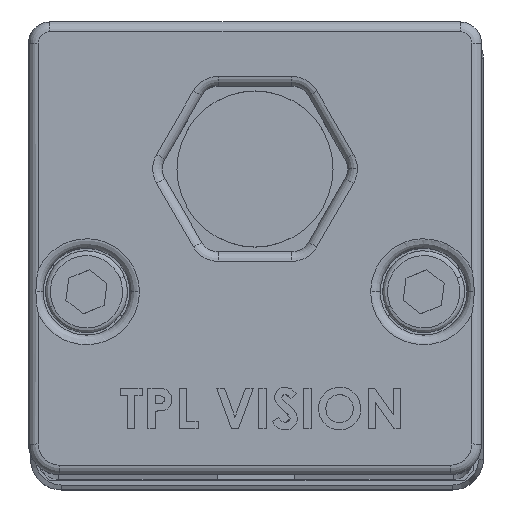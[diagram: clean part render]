
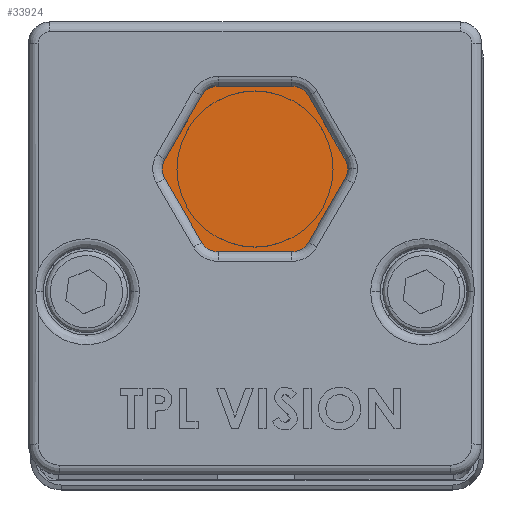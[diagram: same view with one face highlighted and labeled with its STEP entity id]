
A CAD part, top view. The second image highlights one B-rep face of the part: STEP entity #33924.
In plain terms, the highlighted planar face has unit normal (0, 0, 1).
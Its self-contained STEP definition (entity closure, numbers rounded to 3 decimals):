
#3451 = CARTESIAN_POINT ( 'NONE',  ( -0.217, 15.5, 824.5 ) ) ;
#3452 = CARTESIAN_POINT ( 'NONE',  ( 0.051, 14.5, 824.5 ) ) ;
#3529 = DIRECTION ( 'NONE',  ( 1., 0., 0. ) ) ;
#3530 = DIRECTION ( 'NONE',  ( 0., 0., 1. ) ) ;
#3531 = CARTESIAN_POINT ( 'NONE',  ( -1.949, 14.5, 824.5 ) ) ;
#3532 = AXIS2_PLACEMENT_3D ( 'NONE', #3531, #3530, #3529 ) ;
#3537 = CIRCLE ( 'NONE', #3532, 2. ) ;
#10302 = CARTESIAN_POINT ( 'NONE',  ( -18.923, 15.5, 824.5 ) ) ;
#10303 = CARTESIAN_POINT ( 'NONE',  ( -15.112, 22.1, 824.5 ) ) ;
#10304 = CARTESIAN_POINT ( 'NONE',  ( -13.38, 23.1, 824.5 ) ) ;
#10305 = DIRECTION ( 'NONE',  ( 1., 0., 0. ) ) ;
#10306 = DIRECTION ( 'NONE',  ( 0., 0., 1. ) ) ;
#10307 = CARTESIAN_POINT ( 'NONE',  ( -13.38, 21.1, 824.5 ) ) ;
#10308 = AXIS2_PLACEMENT_3D ( 'NONE', #10307, #10306, #10305 ) ;
#10313 = CIRCLE ( 'NONE', #10308, 2. ) ;
#10359 = DIRECTION ( 'NONE',  ( -1., 0., 0. ) ) ;
#10360 = VECTOR ( 'NONE', #10359, 1000. ) ;
#10361 = CARTESIAN_POINT ( 'NONE',  ( -5.759, 23.1, 824.5 ) ) ;
#10362 = LINE ( 'NONE', #10361, #10360 ) ;
#13001 = CARTESIAN_POINT ( 'NONE',  ( -0.217, 13.5, 824.5 ) ) ;
#13002 = DIRECTION ( 'NONE',  ( 0.5, 0.866, 0. ) ) ;
#13003 = VECTOR ( 'NONE', #13002, 1000. ) ;
#13004 = CARTESIAN_POINT ( 'NONE',  ( -4.027, 6.9, 824.5 ) ) ;
#13005 = LINE ( 'NONE', #13004, #13003 ) ;
#13007 = CARTESIAN_POINT ( 'NONE',  ( -4.027, 6.9, 824.5 ) ) ;
#13282 = DIRECTION ( 'NONE',  ( 1., 0., 0. ) ) ;
#13283 = DIRECTION ( 'NONE',  ( 0., 0., 1. ) ) ;
#13285 = CARTESIAN_POINT ( 'NONE',  ( -1.949, 14.5, 824.5 ) ) ;
#13286 = AXIS2_PLACEMENT_3D ( 'NONE', #13285, #13283, #13282 ) ;
#13293 = CIRCLE ( 'NONE', #13286, 2. ) ;
#13344 = CARTESIAN_POINT ( 'NONE',  ( -5.759, 23.1, 824.5 ) ) ;
#13346 = DIRECTION ( 'NONE',  ( 1., 0., 0. ) ) ;
#13348 = DIRECTION ( 'NONE',  ( 0., 0., 1. ) ) ;
#13350 = CARTESIAN_POINT ( 'NONE',  ( -5.759, 21.1, 824.5 ) ) ;
#13352 = AXIS2_PLACEMENT_3D ( 'NONE', #13350, #13348, #13346 ) ;
#13354 = CIRCLE ( 'NONE', #13352, 2. ) ;
#13361 = DIRECTION ( 'NONE',  ( -0.5, 0.866, 0. ) ) ;
#13362 = VECTOR ( 'NONE', #13361, 1000. ) ;
#13363 = CARTESIAN_POINT ( 'NONE',  ( -0.217, 15.5, 824.5 ) ) ;
#13365 = LINE ( 'NONE', #13363, #13362 ) ;
#13374 = DIRECTION ( 'NONE',  ( 1., 0., 0. ) ) ;
#13375 = VECTOR ( 'NONE', #13374, 1000. ) ;
#13377 = CARTESIAN_POINT ( 'NONE',  ( -13.38, 5.9, 824.5 ) ) ;
#13379 = LINE ( 'NONE', #13377, #13375 ) ;
#13382 = CARTESIAN_POINT ( 'NONE',  ( -13.38, 5.9, 824.5 ) ) ;
#13384 = DIRECTION ( 'NONE',  ( 1., 0., 0. ) ) ;
#13386 = DIRECTION ( 'NONE',  ( 0., 0., 1. ) ) ;
#13388 = CARTESIAN_POINT ( 'NONE',  ( -13.38, 7.9, 824.5 ) ) ;
#13390 = AXIS2_PLACEMENT_3D ( 'NONE', #13388, #13386, #13384 ) ;
#13391 = CIRCLE ( 'NONE', #13390, 2. ) ;
#13410 = DIRECTION ( 'NONE',  ( 1., 0., 0. ) ) ;
#13412 = DIRECTION ( 'NONE',  ( 0., 0., 1. ) ) ;
#13414 = CARTESIAN_POINT ( 'NONE',  ( -13.38, 21.1, 824.5 ) ) ;
#13415 = AXIS2_PLACEMENT_3D ( 'NONE', #13414, #13412, #13410 ) ;
#13420 = PLANE ( 'NONE',  #13415 ) ;
#13482 = FACE_OUTER_BOUND ( 'NONE', #33925, .T. ) ;
#13532 = CARTESIAN_POINT ( 'NONE',  ( -15.112, 6.9, 824.5 ) ) ;
#13535 = DIRECTION ( 'NONE',  ( 0.5, -0.866, 0. ) ) ;
#13536 = VECTOR ( 'NONE', #13535, 1000. ) ;
#13537 = CARTESIAN_POINT ( 'NONE',  ( -18.923, 13.5, 824.5 ) ) ;
#13539 = LINE ( 'NONE', #13537, #13536 ) ;
#13544 = CARTESIAN_POINT ( 'NONE',  ( -18.923, 13.5, 824.5 ) ) ;
#13546 = DIRECTION ( 'NONE',  ( 1., 0., 0. ) ) ;
#13547 = DIRECTION ( 'NONE',  ( 0., 0., 1. ) ) ;
#13548 = AXIS2_PLACEMENT_3D ( 'NONE', #13552, #13547, #13546 ) ;
#13550 = CIRCLE ( 'NONE', #13548, 2. ) ;
#13552 = CARTESIAN_POINT ( 'NONE',  ( -17.191, 14.5, 824.5 ) ) ;
#13556 = CARTESIAN_POINT ( 'NONE',  ( -4.027, 22.1, 824.5 ) ) ;
#13663 = DIRECTION ( 'NONE',  ( 1., 0., 0. ) ) ;
#13664 = DIRECTION ( 'NONE',  ( 0., 0., 1. ) ) ;
#13665 = CARTESIAN_POINT ( 'NONE',  ( -5.759, 7.9, 824.5 ) ) ;
#13666 = AXIS2_PLACEMENT_3D ( 'NONE', #13665, #13664, #13663 ) ;
#13667 = CIRCLE ( 'NONE', #13666, 2. ) ;
#13680 = DIRECTION ( 'NONE',  ( -0.5, -0.866, 0. ) ) ;
#13681 = VECTOR ( 'NONE', #13680, 1000. ) ;
#13682 = CARTESIAN_POINT ( 'NONE',  ( -15.112, 22.1, 824.5 ) ) ;
#13683 = LINE ( 'NONE', #13682, #13681 ) ;
#13815 = CARTESIAN_POINT ( 'NONE',  ( -5.759, 5.9, 824.5 ) ) ;
#31832 = EDGE_CURVE ( 'NONE', #31833, #31834, #3537, .T. ) ;
#31833 = VERTEX_POINT ( 'NONE', #3452 ) ;
#31834 = VERTEX_POINT ( 'NONE', #3451 ) ;
#33373 = ORIENTED_EDGE ( 'NONE', *, *, #33374, .T. ) ;
#33374 = EDGE_CURVE ( 'NONE', #33908, #33383, #10362, .T. ) ;
#33382 = EDGE_CURVE ( 'NONE', #33383, #33384, #10313, .T. ) ;
#33383 = VERTEX_POINT ( 'NONE', #10304 ) ;
#33384 = VERTEX_POINT ( 'NONE', #10303 ) ;
#33385 = VERTEX_POINT ( 'NONE', #10302 ) ;
#33838 = VERTEX_POINT ( 'NONE', #13007 ) ;
#33839 = ORIENTED_EDGE ( 'NONE', *, *, #33840, .T. ) ;
#33840 = EDGE_CURVE ( 'NONE', #33838, #33841, #13005, .T. ) ;
#33841 = VERTEX_POINT ( 'NONE', #13001 ) ;
#33842 = ORIENTED_EDGE ( 'NONE', *, *, #33913, .T. ) ;
#33888 = ORIENTED_EDGE ( 'NONE', *, *, #31832, .T. ) ;
#33889 = VERTEX_POINT ( 'NONE', #13556 ) ;
#33890 = EDGE_CURVE ( 'NONE', #33385, #33891, #13550, .T. ) ;
#33891 = VERTEX_POINT ( 'NONE', #13544 ) ;
#33892 = ORIENTED_EDGE ( 'NONE', *, *, #33893, .T. ) ;
#33893 = EDGE_CURVE ( 'NONE', #33891, #33894, #13539, .T. ) ;
#33894 = VERTEX_POINT ( 'NONE', #13532 ) ;
#33895 = ORIENTED_EDGE ( 'NONE', *, *, #33896, .T. ) ;
#33896 = EDGE_CURVE ( 'NONE', #33894, #33897, #13391, .T. ) ;
#33897 = VERTEX_POINT ( 'NONE', #13382 ) ;
#33898 = ORIENTED_EDGE ( 'NONE', *, *, #33899, .T. ) ;
#33899 = EDGE_CURVE ( 'NONE', #33897, #33947, #13379, .T. ) ;
#33904 = ORIENTED_EDGE ( 'NONE', *, *, #33905, .T. ) ;
#33905 = EDGE_CURVE ( 'NONE', #31834, #33889, #13365, .T. ) ;
#33906 = ORIENTED_EDGE ( 'NONE', *, *, #33907, .T. ) ;
#33907 = EDGE_CURVE ( 'NONE', #33889, #33908, #13354, .T. ) ;
#33908 = VERTEX_POINT ( 'NONE', #13344 ) ;
#33913 = EDGE_CURVE ( 'NONE', #33841, #31833, #13293, .T. ) ;
#33924 = ADVANCED_FACE ( 'NONE', ( #13482 ), #13420, .T. ) ;
#33925 = EDGE_LOOP ( 'NONE', ( #33926, #33943, #33945, #33892, #33895, #33898, #33948, #33839, #33842, #33888, #33904, #33906, #33373 ) ) ;
#33926 = ORIENTED_EDGE ( 'NONE', *, *, #33382, .T. ) ;
#33943 = ORIENTED_EDGE ( 'NONE', *, *, #33944, .T. ) ;
#33944 = EDGE_CURVE ( 'NONE', #33384, #33385, #13683, .T. ) ;
#33945 = ORIENTED_EDGE ( 'NONE', *, *, #33890, .T. ) ;
#33947 = VERTEX_POINT ( 'NONE', #13815 ) ;
#33948 = ORIENTED_EDGE ( 'NONE', *, *, #33949, .T. ) ;
#33949 = EDGE_CURVE ( 'NONE', #33947, #33838, #13667, .T. ) ;
